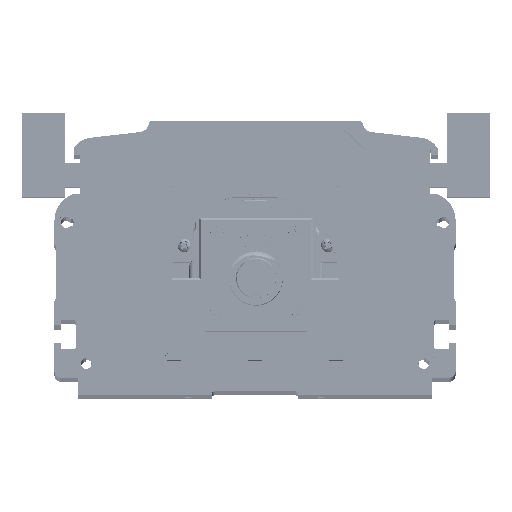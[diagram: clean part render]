
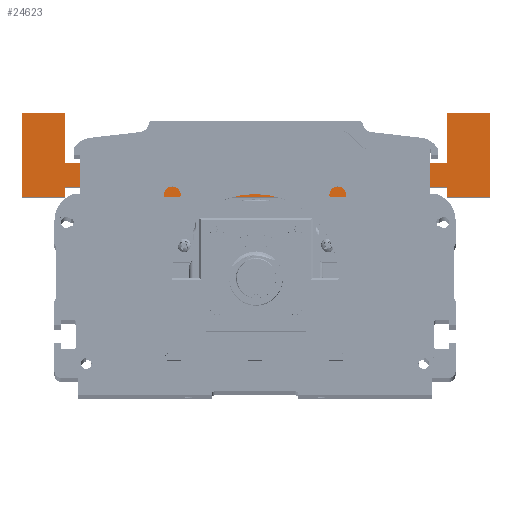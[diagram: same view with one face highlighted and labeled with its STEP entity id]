
A CAD part, top view. The second image highlights one B-rep face of the part: STEP entity #24623.
In plain terms, the highlighted planar face has unit normal (0, 0, 1) as drawn and (0, 0, -1) by its records, which use the part's own axes.
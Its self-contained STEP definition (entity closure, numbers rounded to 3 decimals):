
#132 = DIRECTION ( 'NONE',  ( 0., 0., 1. ) ) ;
#435 = LINE ( 'NONE', #118303, #17736 ) ;
#2335 = VERTEX_POINT ( 'NONE', #12946 ) ;
#2904 = EDGE_CURVE ( 'NONE', #61022, #88547, #83911, .T. ) ;
#3321 = VERTEX_POINT ( 'NONE', #5504 ) ;
#3355 = VERTEX_POINT ( 'NONE', #86369 ) ;
#3696 = EDGE_CURVE ( 'NONE', #23145, #50041, #74211, .T. ) ;
#3886 = VERTEX_POINT ( 'NONE', #13331 ) ;
#3981 = LINE ( 'NONE', #119346, #122647 ) ;
#4056 = LINE ( 'NONE', #96189, #108484 ) ;
#4382 = CARTESIAN_POINT ( 'NONE',  ( 13., 0., 0. ) ) ;
#4530 = LINE ( 'NONE', #130940, #82049 ) ;
#4609 = CARTESIAN_POINT ( 'NONE',  ( 13., -25., 0. ) ) ;
#5504 = CARTESIAN_POINT ( 'NONE',  ( 127., -25., 0. ) ) ;
#5791 = EDGE_CURVE ( 'NONE', #102750, #43961, #74028, .T. ) ;
#6612 = CARTESIAN_POINT ( 'NONE',  ( 13., -25., 0. ) ) ;
#7054 = CARTESIAN_POINT ( 'NONE',  ( 121., -22., 0. ) ) ;
#7352 = DIRECTION ( 'NONE',  ( 1., 0., 0. ) ) ;
#8091 = EDGE_CURVE ( 'NONE', #43961, #24985, #4056, .T. ) ;
#8940 = EDGE_CURVE ( 'NONE', #24985, #29279, #95644, .T. ) ;
#10458 = EDGE_CURVE ( 'NONE', #88547, #80615, #76301, .T. ) ;
#10884 = VECTOR ( 'NONE', #75083, 1000. ) ;
#11100 = DIRECTION ( 'NONE',  ( -1., 0., 0. ) ) ;
#11987 = EDGE_CURVE ( 'NONE', #81441, #23145, #112727, .T. ) ;
#12004 = DIRECTION ( 'NONE',  ( -1., 0., 0. ) ) ;
#12156 = CARTESIAN_POINT ( 'NONE',  ( 0., -25., 0. ) ) ;
#12946 = CARTESIAN_POINT ( 'NONE',  ( 127., -22., 0. ) ) ;
#13331 = CARTESIAN_POINT ( 'NONE',  ( 13., 0., 0. ) ) ;
#13630 = ORIENTED_EDGE ( 'NONE', *, *, #3696, .F. ) ;
#16666 = DIRECTION ( 'NONE',  ( 0., -1., 0. ) ) ;
#17736 = VECTOR ( 'NONE', #7352, 1000. ) ;
#18123 = VERTEX_POINT ( 'NONE', #25787 ) ;
#19486 = EDGE_CURVE ( 'NONE', #3355, #61022, #105579, .T. ) ;
#19736 = ORIENTED_EDGE ( 'NONE', *, *, #19486, .F. ) ;
#20071 = LINE ( 'NONE', #83888, #124584 ) ;
#20214 = VECTOR ( 'NONE', #29636, 1000. ) ;
#20808 = DIRECTION ( 'NONE',  ( 0., -1., 0. ) ) ;
#23145 = VERTEX_POINT ( 'NONE', #93822 ) ;
#24623 = ADVANCED_FACE ( 'NONE', ( #75069 ), #121259, .F. ) ;
#24985 = VERTEX_POINT ( 'NONE', #6612 ) ;
#25787 = CARTESIAN_POINT ( 'NONE',  ( 13., -15., 0. ) ) ;
#26805 = EDGE_CURVE ( 'NONE', #29279, #3355, #435, .T. ) ;
#29279 = VERTEX_POINT ( 'NONE', #103950 ) ;
#29636 = DIRECTION ( 'NONE',  ( 0., -1., 0. ) ) ;
#33113 = EDGE_CURVE ( 'NONE', #50041, #18123, #99823, .T. ) ;
#35261 = ORIENTED_EDGE ( 'NONE', *, *, #8940, .F. ) ;
#36786 = ORIENTED_EDGE ( 'NONE', *, *, #81022, .F. ) ;
#39989 = CARTESIAN_POINT ( 'NONE',  ( 121., -25., 0. ) ) ;
#40550 = EDGE_CURVE ( 'NONE', #56847, #81441, #98705, .T. ) ;
#43068 = ORIENTED_EDGE ( 'NONE', *, *, #47382, .F. ) ;
#43350 = CARTESIAN_POINT ( 'NONE',  ( 42., -15., 0. ) ) ;
#43961 = VERTEX_POINT ( 'NONE', #12156 ) ;
#44911 = EDGE_CURVE ( 'NONE', #3321, #56847, #3981, .T. ) ;
#45973 = VECTOR ( 'NONE', #12004, 1000. ) ;
#46774 = CARTESIAN_POINT ( 'NONE',  ( 127., -25., 0. ) ) ;
#47343 = VECTOR ( 'NONE', #20808, 1000. ) ;
#47382 = EDGE_CURVE ( 'NONE', #2335, #3321, #52595, .T. ) ;
#49421 = VECTOR ( 'NONE', #16666, 1000. ) ;
#49484 = VECTOR ( 'NONE', #80700, 1000. ) ;
#49836 = ORIENTED_EDGE ( 'NONE', *, *, #2904, .F. ) ;
#50041 = VERTEX_POINT ( 'NONE', #78301 ) ;
#51043 = CARTESIAN_POINT ( 'NONE',  ( 140., 0., 0. ) ) ;
#52063 = EDGE_CURVE ( 'NONE', #18123, #3886, #4530, .T. ) ;
#52595 = LINE ( 'NONE', #46774, #49421 ) ;
#55044 = ORIENTED_EDGE ( 'NONE', *, *, #52063, .F. ) ;
#56349 = DIRECTION ( 'NONE',  ( 1., 0., 0. ) ) ;
#56439 = CARTESIAN_POINT ( 'NONE',  ( 0., -25., 0. ) ) ;
#56847 = VERTEX_POINT ( 'NONE', #124155 ) ;
#58088 = AXIS2_PLACEMENT_3D ( 'NONE', #100923, #132, #70808 ) ;
#61022 = VERTEX_POINT ( 'NONE', #111492 ) ;
#61108 = CARTESIAN_POINT ( 'NONE',  ( 127., 0., 0. ) ) ;
#65616 = ORIENTED_EDGE ( 'NONE', *, *, #78687, .F. ) ;
#67790 = ORIENTED_EDGE ( 'NONE', *, *, #5791, .F. ) ;
#69559 = ORIENTED_EDGE ( 'NONE', *, *, #10458, .F. ) ;
#69591 = ORIENTED_EDGE ( 'NONE', *, *, #33113, .F. ) ;
#70313 = CARTESIAN_POINT ( 'NONE',  ( 0., 0., 0. ) ) ;
#70808 = DIRECTION ( 'NONE',  ( 1., 0., 0. ) ) ;
#71748 = VECTOR ( 'NONE', #99100, 1000. ) ;
#74028 = LINE ( 'NONE', #70313, #20214 ) ;
#74211 = LINE ( 'NONE', #61108, #47343 ) ;
#75069 = FACE_OUTER_BOUND ( 'NONE', #124786, .T. ) ;
#75083 = DIRECTION ( 'NONE',  ( -1., 0., 0. ) ) ;
#75712 = DIRECTION ( 'NONE',  ( 0., 1., 0. ) ) ;
#76301 = LINE ( 'NONE', #39989, #49484 ) ;
#78301 = CARTESIAN_POINT ( 'NONE',  ( 127., -15., 0. ) ) ;
#78612 = VECTOR ( 'NONE', #104932, 1000. ) ;
#78687 = EDGE_CURVE ( 'NONE', #3886, #102750, #118426, .T. ) ;
#80041 = DIRECTION ( 'NONE',  ( 0., 1., 0. ) ) ;
#80615 = VERTEX_POINT ( 'NONE', #7054 ) ;
#80700 = DIRECTION ( 'NONE',  ( 0., 1., 0. ) ) ;
#80739 = VECTOR ( 'NONE', #117921, 1000. ) ;
#81022 = EDGE_CURVE ( 'NONE', #80615, #2335, #20071, .T. ) ;
#81441 = VERTEX_POINT ( 'NONE', #51043 ) ;
#81458 = ORIENTED_EDGE ( 'NONE', *, *, #8091, .F. ) ;
#82049 = VECTOR ( 'NONE', #80041, 1000. ) ;
#83888 = CARTESIAN_POINT ( 'NONE',  ( 121., -22., 0. ) ) ;
#83911 = LINE ( 'NONE', #56439, #80739 ) ;
#84120 = CARTESIAN_POINT ( 'NONE',  ( 19., -25., 0. ) ) ;
#85738 = VECTOR ( 'NONE', #11100, 1000. ) ;
#86369 = CARTESIAN_POINT ( 'NONE',  ( 19., -22., 0. ) ) ;
#88547 = VERTEX_POINT ( 'NONE', #91911 ) ;
#91911 = CARTESIAN_POINT ( 'NONE',  ( 121., -25., 0. ) ) ;
#93822 = CARTESIAN_POINT ( 'NONE',  ( 127., 0., 0. ) ) ;
#95644 = LINE ( 'NONE', #4609, #116216 ) ;
#96189 = CARTESIAN_POINT ( 'NONE',  ( 0., -25., 0. ) ) ;
#98705 = LINE ( 'NONE', #108826, #71748 ) ;
#99025 = DIRECTION ( 'NONE',  ( 1., 0., 0. ) ) ;
#99100 = DIRECTION ( 'NONE',  ( 0., 1., 0. ) ) ;
#99823 = LINE ( 'NONE', #43350, #45973 ) ;
#100923 = CARTESIAN_POINT ( 'NONE',  ( 0., 0., 0. ) ) ;
#102750 = VERTEX_POINT ( 'NONE', #129798 ) ;
#103663 = ORIENTED_EDGE ( 'NONE', *, *, #11987, .F. ) ;
#103950 = CARTESIAN_POINT ( 'NONE',  ( 13., -22., 0. ) ) ;
#104932 = DIRECTION ( 'NONE',  ( 0., -1., 0. ) ) ;
#105579 = LINE ( 'NONE', #84120, #78612 ) ;
#108484 = VECTOR ( 'NONE', #56349, 1000. ) ;
#108673 = ORIENTED_EDGE ( 'NONE', *, *, #44911, .F. ) ;
#108826 = CARTESIAN_POINT ( 'NONE',  ( 140., -25., 0. ) ) ;
#111492 = CARTESIAN_POINT ( 'NONE',  ( 19., -25., 0. ) ) ;
#112727 = LINE ( 'NONE', #122088, #85738 ) ;
#116216 = VECTOR ( 'NONE', #75712, 1000. ) ;
#117921 = DIRECTION ( 'NONE',  ( 1., 0., 0. ) ) ;
#118303 = CARTESIAN_POINT ( 'NONE',  ( 19., -22., 0. ) ) ;
#118426 = LINE ( 'NONE', #4382, #10884 ) ;
#119346 = CARTESIAN_POINT ( 'NONE',  ( 0., -25., 0. ) ) ;
#121259 = PLANE ( 'NONE',  #58088 ) ;
#122088 = CARTESIAN_POINT ( 'NONE',  ( 140., 0., 0. ) ) ;
#122647 = VECTOR ( 'NONE', #99025, 1000. ) ;
#124155 = CARTESIAN_POINT ( 'NONE',  ( 140., -25., 0. ) ) ;
#124478 = ORIENTED_EDGE ( 'NONE', *, *, #26805, .F. ) ;
#124575 = DIRECTION ( 'NONE',  ( 1., 0., 0. ) ) ;
#124584 = VECTOR ( 'NONE', #124575, 1000. ) ;
#124786 = EDGE_LOOP ( 'NONE', ( #69591, #13630, #103663, #129880, #108673, #43068, #36786, #69559, #49836, #19736, #124478, #35261, #81458, #67790, #65616, #55044 ) ) ;
#129798 = CARTESIAN_POINT ( 'NONE',  ( 0., 0., 0. ) ) ;
#129880 = ORIENTED_EDGE ( 'NONE', *, *, #40550, .F. ) ;
#130940 = CARTESIAN_POINT ( 'NONE',  ( 13., -15., 0. ) ) ;
